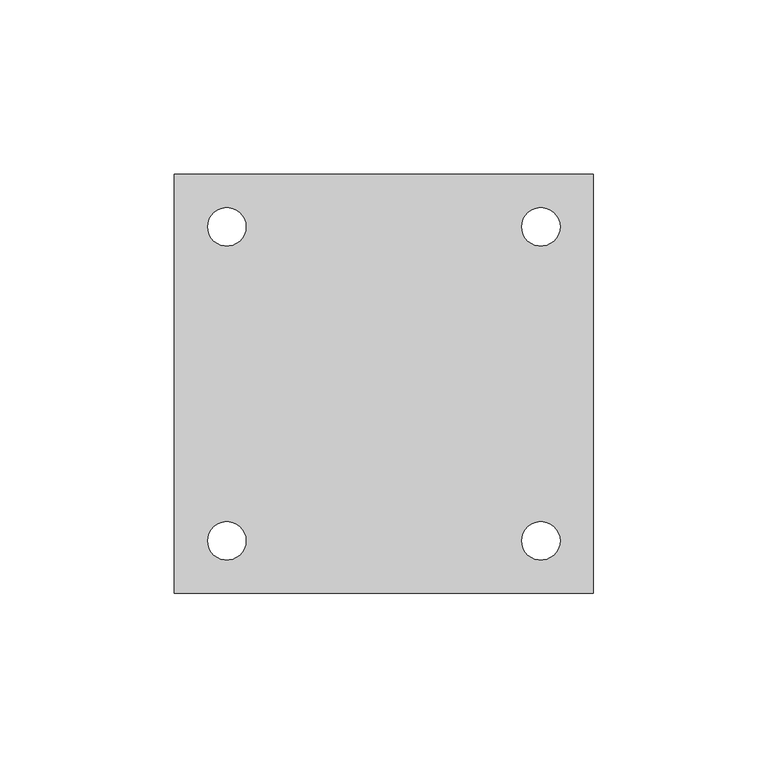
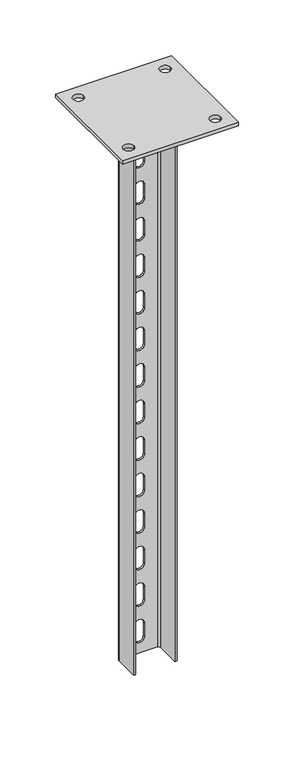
"""IFC4 building model written with IfcOpenShell, lengths in millimetres: proxy geometry, КМ Профиль_Стойка потолочная усиленная PSTU : PSTU600."""

from ifc_helpers import new_model, si_unit, point, frame, frame_2d, origin, place, context, project, spatial, polyline, circle_curve, trimmed, segment, composite_curve, outline, extrude, source, transform, mapped, element, save
from ifc_brep_helpers import plane_surface, cylinder_surface, revolved_surface, advanced_brep


def generic_models_ff980f85(model_context):
    return source(origin(), model_context, "Body", "SolidModel", [
        advanced_brep(
        [(22.5, -15.0, -4.0), (22.5, 11.0, -4.0), (18.5, 15.0, -4.0), (-18.5, 15.0, -4.0), (-22.5, 11.0, -4.0), (-22.5, -15.0, -4.0), (-20.5, -15.0, -4.0), (-20.5, 11.0, -4.0), (-18.5, 13.0, -4.0), (18.5, 13.0, -4.0), (20.5, 11.0, -4.0), (20.5, -15.0, -4.0), (22.5, 11.0, -604.0), (22.5, -15.0, -604.0), (20.5, -15.0, -604.0), (20.5, 11.0, -604.0), (18.5, 13.0, -604.0), (-18.5, 13.0, -604.0), (-20.5, 11.0, -604.0), (-20.5, -15.0, -604.0), (-22.5, -15.0, -604.0), (-22.5, 11.0, -604.0), (-18.5, 15.0, -604.0), (18.5, 15.0, -604.0), (-5.0, 15.0, -53.0), (-5.0, 15.0, -68.0), (5.0, 15.0, -68.0), (5.0, 15.0, -53.0), (-5.0, 15.0, -93.0), (-5.0, 15.0, -108.0), (5.0, 15.0, -108.0), (5.0, 15.0, -93.0), (-5.0, 15.0, -133.0), (-5.0, 15.0, -148.0), (5.0, 15.0, -148.0), (5.0, 15.0, -133.0), (-5.0, 15.0, -173.0), (-5.0, 15.0, -188.0), (5.0, 15.0, -188.0), (5.0, 15.0, -173.0), (-5.0, 15.0, -213.0), (-5.0, 15.0, -228.0), (5.0, 15.0, -228.0), (5.0, 15.0, -213.0), (-5.0, 15.0, -253.0), (-5.0, 15.0, -268.0), (5.0, 15.0, -268.0), (5.0, 15.0, -253.0), (-5.0, 15.0, -293.0), (-5.0, 15.0, -308.0), (5.0, 15.0, -308.0), (5.0, 15.0, -293.0), (-5.0, 15.0, -333.0), (-5.0, 15.0, -348.0), (5.0, 15.0, -348.0), (5.0, 15.0, -333.0), (-5.0, 15.0, -373.0), (-5.0, 15.0, -388.0), (5.0, 15.0, -388.0), (5.0, 15.0, -373.0), (-5.0, 15.0, -413.0), (-5.0, 15.0, -428.0), (5.0, 15.0, -428.0), (5.0, 15.0, -413.0), (-5.0, 15.0, -453.0), (-5.0, 15.0, -468.0), (5.0, 15.0, -468.0), (5.0, 15.0, -453.0), (-5.0, 15.0, -493.0), (-5.0, 15.0, -508.0), (5.0, 15.0, -508.0), (5.0, 15.0, -493.0), (-5.0, 15.0, -533.0), (-5.0, 15.0, -548.0), (5.0, 15.0, -548.0), (5.0, 15.0, -533.0), (-5.0, 15.0, -573.0), (-5.0, 15.0, -588.0), (5.0, 15.0, -588.0), (5.0, 15.0, -573.0), (-5.0, 15.0, -13.0), (-5.0, 15.0, -28.0), (5.0, 15.0, -28.0), (5.0, 15.0, -13.0), (-5.0, 13.0, -68.0), (-5.0, 13.0, -53.0), (5.0, 13.0, -53.0), (5.0, 13.0, -68.0), (-5.0, 13.0, -108.0), (-5.0, 13.0, -93.0), (5.0, 13.0, -93.0), (5.0, 13.0, -108.0), (-5.0, 13.0, -148.0), (-5.0, 13.0, -133.0), (5.0, 13.0, -133.0), (5.0, 13.0, -148.0), (-5.0, 13.0, -188.0), (-5.0, 13.0, -173.0), (5.0, 13.0, -173.0), (5.0, 13.0, -188.0), (-5.0, 13.0, -228.0), (-5.0, 13.0, -213.0), (5.0, 13.0, -213.0), (5.0, 13.0, -228.0), (-5.0, 13.0, -268.0), (-5.0, 13.0, -253.0), (5.0, 13.0, -253.0), (5.0, 13.0, -268.0), (-5.0, 13.0, -308.0), (-5.0, 13.0, -293.0), (5.0, 13.0, -293.0), (5.0, 13.0, -308.0), (-5.0, 13.0, -348.0), (-5.0, 13.0, -333.0), (5.0, 13.0, -333.0), (5.0, 13.0, -348.0), (-5.0, 13.0, -388.0), (-5.0, 13.0, -373.0), (5.0, 13.0, -373.0), (5.0, 13.0, -388.0), (-5.0, 13.0, -428.0), (-5.0, 13.0, -413.0), (5.0, 13.0, -413.0), (5.0, 13.0, -428.0), (-5.0, 13.0, -468.0), (-5.0, 13.0, -453.0), (5.0, 13.0, -453.0), (5.0, 13.0, -468.0), (-5.0, 13.0, -508.0), (-5.0, 13.0, -493.0), (5.0, 13.0, -493.0), (5.0, 13.0, -508.0), (-5.0, 13.0, -548.0), (-5.0, 13.0, -533.0), (5.0, 13.0, -533.0), (5.0, 13.0, -548.0), (-5.0, 13.0, -588.0), (-5.0, 13.0, -573.0), (5.0, 13.0, -573.0), (5.0, 13.0, -588.0), (-5.0, 13.0, -28.0), (-5.0, 13.0, -13.0), (5.0, 13.0, -13.0), (5.0, 13.0, -28.0)],
        [
            (0, 1),
            (1, 2, circle_curve(frame((18.5, 11.0, -4.0), z_axis=(0.0, 0.0, 1.0), x_axis=(1.0, 0.0, 0.0)), 4.0)),
            (2, 3),
            (3, 4, circle_curve(frame((-18.5, 11.0, -4.0), z_axis=(0.0, 0.0, 1.0), x_axis=(1.0, 0.0, 0.0)), 4.0)),
            (4, 5),
            (5, 6),
            (6, 7),
            (7, 8, circle_curve(frame((-18.5, 11.0, -4.0), z_axis=(0.0, 0.0, -1.0), x_axis=(1.0, 0.0, 0.0)), 2.0)),
            (8, 9),
            (9, 10, circle_curve(frame((18.5, 11.0, -4.0), z_axis=(0.0, 0.0, -1.0), x_axis=(1.0, 0.0, 0.0)), 2.0)),
            (10, 11),
            (11, 0),
            (12, 13),
            (13, 14),
            (14, 15),
            (15, 16, circle_curve(frame((18.5, 11.0, -604.0), z_axis=(0.0, 0.0, 1.0), x_axis=(1.0, 0.0, 0.0)), 2.0)),
            (16, 17),
            (17, 18, circle_curve(frame((-18.5, 11.0, -604.0), z_axis=(0.0, 0.0, 1.0), x_axis=(1.0, 0.0, 0.0)), 2.0)),
            (18, 19),
            (19, 20),
            (20, 21),
            (21, 22, circle_curve(frame((-18.5, 11.0, -604.0), z_axis=(0.0, 0.0, -1.0), x_axis=(1.0, 0.0, 0.0)), 4.0)),
            (22, 23),
            (23, 12, circle_curve(frame((18.5, 11.0, -604.0), z_axis=(0.0, 0.0, -1.0), x_axis=(1.0, 0.0, 0.0)), 4.0)),
            (0, 13),
            (12, 1),
            (23, 2),
            (22, 3),
            (24, 25),
            (25, 26, circle_curve(frame((0.0, 15.0, -68.0), z_axis=(0.0, -1.0, 0.0), x_axis=(0.0, 0.0, -1.0)), 5.0)),
            (26, 27),
            (27, 24, circle_curve(frame((0.0, 15.0, -53.0), z_axis=(0.0, -1.0, 0.0), x_axis=(0.0, 0.0, -1.0)), 5.0)),
            (28, 29),
            (29, 30, circle_curve(frame((0.0, 15.0, -108.0), z_axis=(0.0, -1.0, 0.0), x_axis=(0.0, 0.0, -1.0)), 5.0)),
            (30, 31),
            (31, 28, circle_curve(frame((0.0, 15.0, -93.0), z_axis=(0.0, -1.0, 0.0), x_axis=(0.0, 0.0, -1.0)), 5.0)),
            (32, 33),
            (33, 34, circle_curve(frame((0.0, 15.0, -148.0), z_axis=(0.0, -1.0, 0.0), x_axis=(0.0, 0.0, -1.0)), 5.0)),
            (34, 35),
            (35, 32, circle_curve(frame((0.0, 15.0, -133.0), z_axis=(0.0, -1.0, 0.0), x_axis=(0.0, 0.0, -1.0)), 5.0)),
            (36, 37),
            (37, 38, circle_curve(frame((0.0, 15.0, -188.0), z_axis=(0.0, -1.0, 0.0), x_axis=(0.0, 0.0, -1.0)), 5.0)),
            (38, 39),
            (39, 36, circle_curve(frame((0.0, 15.0, -173.0), z_axis=(0.0, -1.0, 0.0), x_axis=(0.0, 0.0, -1.0)), 5.0)),
            (40, 41),
            (41, 42, circle_curve(frame((0.0, 15.0, -228.0), z_axis=(0.0, -1.0, 0.0), x_axis=(0.0, 0.0, -1.0)), 5.0)),
            (42, 43),
            (43, 40, circle_curve(frame((0.0, 15.0, -213.0), z_axis=(0.0, -1.0, 0.0), x_axis=(0.0, 0.0, -1.0)), 5.0)),
            (44, 45),
            (45, 46, circle_curve(frame((0.0, 15.0, -268.0), z_axis=(0.0, -1.0, 0.0), x_axis=(0.0, 0.0, -1.0)), 5.0)),
            (46, 47),
            (47, 44, circle_curve(frame((0.0, 15.0, -253.0), z_axis=(0.0, -1.0, 0.0), x_axis=(0.0, 0.0, -1.0)), 5.0)),
            (48, 49),
            (49, 50, circle_curve(frame((0.0, 15.0, -308.0), z_axis=(0.0, -1.0, 0.0), x_axis=(0.0, 0.0, -1.0)), 5.0)),
            (50, 51),
            (51, 48, circle_curve(frame((0.0, 15.0, -293.0), z_axis=(0.0, -1.0, 0.0), x_axis=(0.0, 0.0, -1.0)), 5.0)),
            (52, 53),
            (53, 54, circle_curve(frame((0.0, 15.0, -348.0), z_axis=(0.0, -1.0, 0.0), x_axis=(0.0, 0.0, -1.0)), 5.0)),
            (54, 55),
            (55, 52, circle_curve(frame((0.0, 15.0, -333.0), z_axis=(0.0, -1.0, 0.0), x_axis=(0.0, 0.0, -1.0)), 5.0)),
            (56, 57),
            (57, 58, circle_curve(frame((0.0, 15.0, -388.0), z_axis=(0.0, -1.0, 0.0), x_axis=(0.0, 0.0, -1.0)), 5.0)),
            (58, 59),
            (59, 56, circle_curve(frame((0.0, 15.0, -373.0), z_axis=(0.0, -1.0, 0.0), x_axis=(0.0, 0.0, -1.0)), 5.0)),
            (60, 61),
            (61, 62, circle_curve(frame((0.0, 15.0, -428.0), z_axis=(0.0, -1.0, 0.0), x_axis=(0.0, 0.0, -1.0)), 5.0)),
            (62, 63),
            (63, 60, circle_curve(frame((0.0, 15.0, -413.0), z_axis=(0.0, -1.0, 0.0), x_axis=(0.0, 0.0, -1.0)), 5.0)),
            (64, 65),
            (65, 66, circle_curve(frame((0.0, 15.0, -468.0), z_axis=(0.0, -1.0, 0.0), x_axis=(0.0, 0.0, -1.0)), 5.0)),
            (66, 67),
            (67, 64, circle_curve(frame((0.0, 15.0, -453.0), z_axis=(0.0, -1.0, 0.0), x_axis=(0.0, 0.0, -1.0)), 5.0)),
            (68, 69),
            (69, 70, circle_curve(frame((0.0, 15.0, -508.0), z_axis=(0.0, -1.0, 0.0), x_axis=(0.0, 0.0, -1.0)), 5.0)),
            (70, 71),
            (71, 68, circle_curve(frame((0.0, 15.0, -493.0), z_axis=(0.0, -1.0, 0.0), x_axis=(0.0, 0.0, -1.0)), 5.0)),
            (72, 73),
            (73, 74, circle_curve(frame((0.0, 15.0, -548.0), z_axis=(0.0, -1.0, 0.0), x_axis=(0.0, 0.0, -1.0)), 5.0)),
            (74, 75),
            (75, 72, circle_curve(frame((0.0, 15.0, -533.0), z_axis=(0.0, -1.0, 0.0), x_axis=(0.0, 0.0, -1.0)), 5.0)),
            (76, 77),
            (77, 78, circle_curve(frame((0.0, 15.0, -588.0), z_axis=(0.0, -1.0, 0.0), x_axis=(0.0, 0.0, -1.0)), 5.0)),
            (78, 79),
            (79, 76, circle_curve(frame((0.0, 15.0, -573.0), z_axis=(0.0, -1.0, 0.0), x_axis=(0.0, 0.0, -1.0)), 5.0)),
            (80, 81),
            (81, 82, circle_curve(frame((0.0, 15.0, -28.0), z_axis=(0.0, -1.0, 0.0), x_axis=(0.0, 0.0, -1.0)), 5.0)),
            (82, 83),
            (83, 80, circle_curve(frame((0.0, 15.0, -13.0), z_axis=(0.0, -1.0, 0.0), x_axis=(0.0, 0.0, -1.0)), 5.0)),
            (21, 4),
            (20, 5),
            (19, 6),
            (18, 7),
            (17, 8),
            (16, 9),
            (84, 85),
            (85, 86, circle_curve(frame((0.0, 13.0, -53.0), z_axis=(0.0, 1.0, 0.0), x_axis=(0.0, 0.0, -1.0)), 5.0)),
            (86, 87),
            (87, 84, circle_curve(frame((0.0, 13.0, -68.0), z_axis=(0.0, 1.0, 0.0), x_axis=(0.0, 0.0, -1.0)), 5.0)),
            (88, 89),
            (89, 90, circle_curve(frame((0.0, 13.0, -93.0), z_axis=(0.0, 1.0, 0.0), x_axis=(0.0, 0.0, -1.0)), 5.0)),
            (90, 91),
            (91, 88, circle_curve(frame((0.0, 13.0, -108.0), z_axis=(0.0, 1.0, 0.0), x_axis=(0.0, 0.0, -1.0)), 5.0)),
            (92, 93),
            (93, 94, circle_curve(frame((0.0, 13.0, -133.0), z_axis=(0.0, 1.0, 0.0), x_axis=(0.0, 0.0, -1.0)), 5.0)),
            (94, 95),
            (95, 92, circle_curve(frame((0.0, 13.0, -148.0), z_axis=(0.0, 1.0, 0.0), x_axis=(0.0, 0.0, -1.0)), 5.0)),
            (96, 97),
            (97, 98, circle_curve(frame((0.0, 13.0, -173.0), z_axis=(0.0, 1.0, 0.0), x_axis=(0.0, 0.0, -1.0)), 5.0)),
            (98, 99),
            (99, 96, circle_curve(frame((0.0, 13.0, -188.0), z_axis=(0.0, 1.0, 0.0), x_axis=(0.0, 0.0, -1.0)), 5.0)),
            (100, 101),
            (101, 102, circle_curve(frame((0.0, 13.0, -213.0), z_axis=(0.0, 1.0, 0.0), x_axis=(0.0, 0.0, -1.0)), 5.0)),
            (102, 103),
            (103, 100, circle_curve(frame((0.0, 13.0, -228.0), z_axis=(0.0, 1.0, 0.0), x_axis=(0.0, 0.0, -1.0)), 5.0)),
            (104, 105),
            (105, 106, circle_curve(frame((0.0, 13.0, -253.0), z_axis=(0.0, 1.0, 0.0), x_axis=(0.0, 0.0, -1.0)), 5.0)),
            (106, 107),
            (107, 104, circle_curve(frame((0.0, 13.0, -268.0), z_axis=(0.0, 1.0, 0.0), x_axis=(0.0, 0.0, -1.0)), 5.0)),
            (108, 109),
            (109, 110, circle_curve(frame((0.0, 13.0, -293.0), z_axis=(0.0, 1.0, 0.0), x_axis=(0.0, 0.0, -1.0)), 5.0)),
            (110, 111),
            (111, 108, circle_curve(frame((0.0, 13.0, -308.0), z_axis=(0.0, 1.0, 0.0), x_axis=(0.0, 0.0, -1.0)), 5.0)),
            (112, 113),
            (113, 114, circle_curve(frame((0.0, 13.0, -333.0), z_axis=(0.0, 1.0, 0.0), x_axis=(0.0, 0.0, -1.0)), 5.0)),
            (114, 115),
            (115, 112, circle_curve(frame((0.0, 13.0, -348.0), z_axis=(0.0, 1.0, 0.0), x_axis=(0.0, 0.0, -1.0)), 5.0)),
            (116, 117),
            (117, 118, circle_curve(frame((0.0, 13.0, -373.0), z_axis=(0.0, 1.0, 0.0), x_axis=(0.0, 0.0, -1.0)), 5.0)),
            (118, 119),
            (119, 116, circle_curve(frame((0.0, 13.0, -388.0), z_axis=(0.0, 1.0, 0.0), x_axis=(0.0, 0.0, -1.0)), 5.0)),
            (120, 121),
            (121, 122, circle_curve(frame((0.0, 13.0, -413.0), z_axis=(0.0, 1.0, 0.0), x_axis=(0.0, 0.0, -1.0)), 5.0)),
            (122, 123),
            (123, 120, circle_curve(frame((0.0, 13.0, -428.0), z_axis=(0.0, 1.0, 0.0), x_axis=(0.0, 0.0, -1.0)), 5.0)),
            (124, 125),
            (125, 126, circle_curve(frame((0.0, 13.0, -453.0), z_axis=(0.0, 1.0, 0.0), x_axis=(0.0, 0.0, -1.0)), 5.0)),
            (126, 127),
            (127, 124, circle_curve(frame((0.0, 13.0, -468.0), z_axis=(0.0, 1.0, 0.0), x_axis=(0.0, 0.0, -1.0)), 5.0)),
            (128, 129),
            (129, 130, circle_curve(frame((0.0, 13.0, -493.0), z_axis=(0.0, 1.0, 0.0), x_axis=(0.0, 0.0, -1.0)), 5.0)),
            (130, 131),
            (131, 128, circle_curve(frame((0.0, 13.0, -508.0), z_axis=(0.0, 1.0, 0.0), x_axis=(0.0, 0.0, -1.0)), 5.0)),
            (132, 133),
            (133, 134, circle_curve(frame((0.0, 13.0, -533.0), z_axis=(0.0, 1.0, 0.0), x_axis=(0.0, 0.0, -1.0)), 5.0)),
            (134, 135),
            (135, 132, circle_curve(frame((0.0, 13.0, -548.0), z_axis=(0.0, 1.0, 0.0), x_axis=(0.0, 0.0, -1.0)), 5.0)),
            (136, 137),
            (137, 138, circle_curve(frame((0.0, 13.0, -573.0), z_axis=(0.0, 1.0, 0.0), x_axis=(0.0, 0.0, -1.0)), 5.0)),
            (138, 139),
            (139, 136, circle_curve(frame((0.0, 13.0, -588.0), z_axis=(0.0, 1.0, 0.0), x_axis=(0.0, 0.0, -1.0)), 5.0)),
            (140, 141),
            (141, 142, circle_curve(frame((0.0, 13.0, -13.0), z_axis=(0.0, 1.0, 0.0), x_axis=(0.0, 0.0, -1.0)), 5.0)),
            (142, 143),
            (143, 140, circle_curve(frame((0.0, 13.0, -28.0), z_axis=(0.0, 1.0, 0.0), x_axis=(0.0, 0.0, -1.0)), 5.0)),
            (15, 10),
            (14, 11),
            (24, 85),
            (84, 25),
            (27, 86),
            (26, 87),
            (28, 89),
            (88, 29),
            (31, 90),
            (30, 91),
            (32, 93),
            (92, 33),
            (35, 94),
            (34, 95),
            (36, 97),
            (96, 37),
            (39, 98),
            (38, 99),
            (40, 101),
            (100, 41),
            (43, 102),
            (42, 103),
            (44, 105),
            (104, 45),
            (47, 106),
            (46, 107),
            (48, 109),
            (108, 49),
            (51, 110),
            (50, 111),
            (52, 113),
            (112, 53),
            (55, 114),
            (54, 115),
            (56, 117),
            (116, 57),
            (59, 118),
            (58, 119),
            (60, 121),
            (120, 61),
            (63, 122),
            (62, 123),
            (64, 125),
            (124, 65),
            (67, 126),
            (66, 127),
            (68, 129),
            (128, 69),
            (71, 130),
            (70, 131),
            (72, 133),
            (132, 73),
            (75, 134),
            (74, 135),
            (76, 137),
            (136, 77),
            (79, 138),
            (78, 139),
            (80, 141),
            (140, 81),
            (83, 142),
            (82, 143),
        ],
        [
            plane_surface(frame((22.5, 11.0, -4.0), z_axis=(0.0, 0.0, 1.0), x_axis=(0.0, 1.0, 0.0))),
            plane_surface(frame((22.5, 11.0, -604.0), z_axis=(0.0, 0.0, -1.0), x_axis=(0.0, -1.0, 0.0))),
            plane_surface(frame((22.5, -15.0, -4.0), z_axis=(1.0, 0.0, 0.0), x_axis=(0.0, 0.0, -1.0))),
            cylinder_surface(frame((18.5, 11.0, -604.0), z_axis=(0.0, 0.0, 1.0), x_axis=(1.0, 0.0, 0.0)), 4.0),
            plane_surface(frame((18.5, 15.0, -4.0), z_axis=(0.0, 1.0, 0.0), x_axis=(0.0, 0.0, -1.0))),
            cylinder_surface(frame((-18.5, 11.0, -604.0), z_axis=(0.0, 0.0, 1.0), x_axis=(1.0, 0.0, 0.0)), 4.0),
            plane_surface(frame((-22.5, 11.0, -4.0), z_axis=(-1.0, 0.0, 0.0), x_axis=(0.0, 0.0, -1.0))),
            plane_surface(frame((-22.5, -15.0, -4.0), z_axis=(0.0, -1.0, 0.0), x_axis=(0.0, 0.0, -1.0))),
            plane_surface(frame((-20.5, -15.0, -4.0), z_axis=(1.0, 0.0, 0.0), x_axis=(0.0, 0.0, -1.0))),
            revolved_surface(polyline([(-16.5, 11.0, -604.0), (-16.5, 11.0, -4.0)]), (-18.5, 11.0, -604.0), (0.0, 0.0, -1.0)),
            plane_surface(frame((-18.5, 13.0, -4.0), z_axis=(0.0, -1.0, 0.0), x_axis=(0.0, 0.0, -1.0))),
            revolved_surface(polyline([(20.5, 11.0, -604.0), (20.5, 11.0, -4.0)]), (18.5, 11.0, -604.0), (0.0, 0.0, -1.0)),
            plane_surface(frame((20.5, 11.0, -4.0), z_axis=(-1.0, 0.0, 0.0), x_axis=(0.0, 0.0, -1.0))),
            plane_surface(frame((20.5, -15.0, -4.0), z_axis=(0.0, -1.0, 0.0), x_axis=(0.0, 0.0, -1.0))),
            plane_surface(frame((-5.0, 15.0, -68.0), z_axis=(1.0, 0.0, 0.0), x_axis=(0.0, -1.0, 0.0))),
            revolved_surface(polyline([(0.0, 15.0, -58.0), (0.0, 13.0, -58.0)]), (0.0, 13.0, -53.0), (0.0, 1.0, 0.0)),
            plane_surface(frame((5.0, 15.0, -53.0), z_axis=(-1.0, 0.0, 0.0), x_axis=(0.0, -1.0, 0.0))),
            revolved_surface(polyline([(0.0, 15.0, -73.0), (0.0, 13.0, -73.0)]), (0.0, 13.0, -68.0), (0.0, 1.0, 0.0)),
            plane_surface(frame((-5.0, 15.0, -108.0), z_axis=(1.0, 0.0, 0.0), x_axis=(0.0, -1.0, 0.0))),
            revolved_surface(polyline([(0.0, 15.0, -98.0), (0.0, 13.0, -98.0)]), (0.0, 13.0, -93.0), (0.0, 1.0, 0.0)),
            plane_surface(frame((5.0, 15.0, -93.0), z_axis=(-1.0, 0.0, 0.0), x_axis=(0.0, -1.0, 0.0))),
            revolved_surface(polyline([(0.0, 15.0, -113.0), (0.0, 13.0, -113.0)]), (0.0, 13.0, -108.0), (0.0, 1.0, 0.0)),
            plane_surface(frame((-5.0, 15.0, -148.0), z_axis=(1.0, 0.0, 0.0), x_axis=(0.0, -1.0, 0.0))),
            revolved_surface(polyline([(0.0, 15.0, -138.0), (0.0, 13.0, -138.0)]), (0.0, 13.0, -133.0), (0.0, 1.0, 0.0)),
            plane_surface(frame((5.0, 15.0, -133.0), z_axis=(-1.0, 0.0, 0.0), x_axis=(0.0, -1.0, 0.0))),
            revolved_surface(polyline([(0.0, 15.0, -153.0), (0.0, 13.0, -153.0)]), (0.0, 13.0, -148.0), (0.0, 1.0, 0.0)),
            plane_surface(frame((-5.0, 15.0, -188.0), z_axis=(1.0, 0.0, 0.0), x_axis=(0.0, -1.0, 0.0))),
            revolved_surface(polyline([(0.0, 15.0, -178.0), (0.0, 13.0, -178.0)]), (0.0, 13.0, -173.0), (0.0, 1.0, 0.0)),
            plane_surface(frame((5.0, 15.0, -173.0), z_axis=(-1.0, 0.0, 0.0), x_axis=(0.0, -1.0, 0.0))),
            revolved_surface(polyline([(0.0, 15.0, -193.0), (0.0, 13.0, -193.0)]), (0.0, 13.0, -188.0), (0.0, 1.0, 0.0)),
            plane_surface(frame((-5.0, 15.0, -228.0), z_axis=(1.0, 0.0, 0.0), x_axis=(0.0, -1.0, 0.0))),
            revolved_surface(polyline([(0.0, 15.0, -218.0), (0.0, 13.0, -218.0)]), (0.0, 13.0, -213.0), (0.0, 1.0, 0.0)),
            plane_surface(frame((5.0, 15.0, -213.0), z_axis=(-1.0, 0.0, 0.0), x_axis=(0.0, -1.0, 0.0))),
            revolved_surface(polyline([(0.0, 15.0, -233.0), (0.0, 13.0, -233.0)]), (0.0, 13.0, -228.0), (0.0, 1.0, 0.0)),
            plane_surface(frame((-5.0, 15.0, -268.0), z_axis=(1.0, 0.0, 0.0), x_axis=(0.0, -1.0, 0.0))),
            revolved_surface(polyline([(0.0, 15.0, -258.0), (0.0, 13.0, -258.0)]), (0.0, 13.0, -253.0), (0.0, 1.0, 0.0)),
            plane_surface(frame((5.0, 15.0, -253.0), z_axis=(-1.0, 0.0, 0.0), x_axis=(0.0, -1.0, 0.0))),
            revolved_surface(polyline([(0.0, 15.0, -273.0), (0.0, 13.0, -273.0)]), (0.0, 13.0, -268.0), (0.0, 1.0, 0.0)),
            plane_surface(frame((-5.0, 15.0, -308.0), z_axis=(1.0, 0.0, 0.0), x_axis=(0.0, -1.0, 0.0))),
            revolved_surface(polyline([(0.0, 15.0, -298.0), (0.0, 13.0, -298.0)]), (0.0, 13.0, -293.0), (0.0, 1.0, 0.0)),
            plane_surface(frame((5.0, 15.0, -293.0), z_axis=(-1.0, 0.0, 0.0), x_axis=(0.0, -1.0, 0.0))),
            revolved_surface(polyline([(0.0, 15.0, -313.0), (0.0, 13.0, -313.0)]), (0.0, 13.0, -308.0), (0.0, 1.0, 0.0)),
            plane_surface(frame((-5.0, 15.0, -348.0), z_axis=(1.0, 0.0, 0.0), x_axis=(0.0, -1.0, 0.0))),
            revolved_surface(polyline([(0.0, 15.0, -338.0), (0.0, 13.0, -338.0)]), (0.0, 13.0, -333.0), (0.0, 1.0, 0.0)),
            plane_surface(frame((5.0, 15.0, -333.0), z_axis=(-1.0, 0.0, 0.0), x_axis=(0.0, -1.0, 0.0))),
            revolved_surface(polyline([(0.0, 15.0, -353.0), (0.0, 13.0, -353.0)]), (0.0, 13.0, -348.0), (0.0, 1.0, 0.0)),
            plane_surface(frame((-5.0, 15.0, -388.0), z_axis=(1.0, 0.0, 0.0), x_axis=(0.0, -1.0, 0.0))),
            revolved_surface(polyline([(0.0, 15.0, -378.0), (0.0, 13.0, -378.0)]), (0.0, 13.0, -373.0), (0.0, 1.0, 0.0)),
            plane_surface(frame((5.0, 15.0, -373.0), z_axis=(-1.0, 0.0, 0.0), x_axis=(0.0, -1.0, 0.0))),
            revolved_surface(polyline([(0.0, 15.0, -393.0), (0.0, 13.0, -393.0)]), (0.0, 13.0, -388.0), (0.0, 1.0, 0.0)),
            plane_surface(frame((-5.0, 15.0, -428.0), z_axis=(1.0, 0.0, 0.0), x_axis=(0.0, -1.0, 0.0))),
            revolved_surface(polyline([(0.0, 15.0, -418.0), (0.0, 13.0, -418.0)]), (0.0, 13.0, -413.0), (0.0, 1.0, 0.0)),
            plane_surface(frame((5.0, 15.0, -413.0), z_axis=(-1.0, 0.0, 0.0), x_axis=(0.0, -1.0, 0.0))),
            revolved_surface(polyline([(0.0, 15.0, -433.0), (0.0, 13.0, -433.0)]), (0.0, 13.0, -428.0), (0.0, 1.0, 0.0)),
            plane_surface(frame((-5.0, 15.0, -468.0), z_axis=(1.0, 0.0, 0.0), x_axis=(0.0, -1.0, 0.0))),
            revolved_surface(polyline([(0.0, 15.0, -458.0), (0.0, 13.0, -458.0)]), (0.0, 13.0, -453.0), (0.0, 1.0, 0.0)),
            plane_surface(frame((5.0, 15.0, -453.0), z_axis=(-1.0, 0.0, 0.0), x_axis=(0.0, -1.0, 0.0))),
            revolved_surface(polyline([(0.0, 15.0, -473.0), (0.0, 13.0, -473.0)]), (0.0, 13.0, -468.0), (0.0, 1.0, 0.0)),
            plane_surface(frame((-5.0, 15.0, -508.0), z_axis=(1.0, 0.0, 0.0), x_axis=(0.0, -1.0, 0.0))),
            revolved_surface(polyline([(0.0, 15.0, -498.0), (0.0, 13.0, -498.0)]), (0.0, 13.0, -493.0), (0.0, 1.0, 0.0)),
            plane_surface(frame((5.0, 15.0, -493.0), z_axis=(-1.0, 0.0, 0.0), x_axis=(0.0, -1.0, 0.0))),
            revolved_surface(polyline([(0.0, 15.0, -513.0), (0.0, 13.0, -513.0)]), (0.0, 13.0, -508.0), (0.0, 1.0, 0.0)),
            plane_surface(frame((-5.0, 15.0, -548.0), z_axis=(1.0, 0.0, 0.0), x_axis=(0.0, -1.0, 0.0))),
            revolved_surface(polyline([(0.0, 15.0, -538.0), (0.0, 13.0, -538.0)]), (0.0, 13.0, -533.0), (0.0, 1.0, 0.0)),
            plane_surface(frame((5.0, 15.0, -533.0), z_axis=(-1.0, 0.0, 0.0), x_axis=(0.0, -1.0, 0.0))),
            revolved_surface(polyline([(0.0, 15.0, -553.0), (0.0, 13.0, -553.0)]), (0.0, 13.0, -548.0), (0.0, 1.0, 0.0)),
            plane_surface(frame((-5.0, 15.0, -588.0), z_axis=(1.0, 0.0, 0.0), x_axis=(0.0, -1.0, 0.0))),
            revolved_surface(polyline([(0.0, 15.0, -578.0), (0.0, 13.0, -578.0)]), (0.0, 13.0, -573.0), (0.0, 1.0, 0.0)),
            plane_surface(frame((5.0, 15.0, -573.0), z_axis=(-1.0, 0.0, 0.0), x_axis=(0.0, -1.0, 0.0))),
            revolved_surface(polyline([(0.0, 15.0, -593.0), (0.0, 13.0, -593.0)]), (0.0, 13.0, -588.0), (0.0, 1.0, 0.0)),
            plane_surface(frame((-5.0, 15.0, -28.0), z_axis=(1.0, 0.0, 0.0), x_axis=(0.0, -1.0, 0.0))),
            revolved_surface(polyline([(0.0, 15.0, -18.0), (0.0, 13.0, -18.0)]), (0.0, 13.0, -13.0), (0.0, 1.0, 0.0)),
            plane_surface(frame((5.0, 15.0, -13.0), z_axis=(-1.0, 0.0, 0.0), x_axis=(0.0, -1.0, 0.0))),
            revolved_surface(polyline([(0.0, 15.0, -33.0), (0.0, 13.0, -33.0)]), (0.0, 13.0, -28.0), (0.0, 1.0, 0.0)),
        ],
        [
            (0, [[1, 2, 3, 4, 5, 6, 7, 8, 9, 10, 11, 12]]),
            (1, [[13, 14, 15, 16, 17, 18, 19, 20, 21, 22, 23, 24]]),
            (2, [[-1, 25, -13, 26]]),
            (3, [[-2, -26, -24, 27]]),
            (4, [[-3, -27, -23, 28], [29, 30, 31, 32], [33, 34, 35, 36], [37, 38, 39, 40], [41, 42, 43, 44], [45, 46, 47, 48], [49, 50, 51, 52], [53, 54, 55, 56], [57, 58, 59, 60], [61, 62, 63, 64], [65, 66, 67, 68], [69, 70, 71, 72], [73, 74, 75, 76], [77, 78, 79, 80], [81, 82, 83, 84], [85, 86, 87, 88]]),
            (5, [[-4, -28, -22, 89]]),
            (6, [[-5, -89, -21, 90]]),
            (7, [[-6, -90, -20, 91]]),
            (8, [[-7, -91, -19, 92]]),
            (9, [[-8, -92, -18, 93]]),
            (10, [[-9, -93, -17, 94], [95, 96, 97, 98], [99, 100, 101, 102], [103, 104, 105, 106], [107, 108, 109, 110], [111, 112, 113, 114], [115, 116, 117, 118], [119, 120, 121, 122], [123, 124, 125, 126], [127, 128, 129, 130], [131, 132, 133, 134], [135, 136, 137, 138], [139, 140, 141, 142], [143, 144, 145, 146], [147, 148, 149, 150], [151, 152, 153, 154]]),
            (11, [[-10, -94, -16, 155]]),
            (12, [[-11, -155, -15, 156]]),
            (13, [[-12, -156, -14, -25]]),
            (14, [[157, -95, 158, -29]]),
            (15, [[-157, -32, 159, -96]]),
            (16, [[-159, -31, 160, -97]]),
            (17, [[-158, -98, -160, -30]]),
            (18, [[161, -99, 162, -33]]),
            (19, [[-161, -36, 163, -100]]),
            (20, [[-163, -35, 164, -101]]),
            (21, [[-162, -102, -164, -34]]),
            (22, [[165, -103, 166, -37]]),
            (23, [[-165, -40, 167, -104]]),
            (24, [[-167, -39, 168, -105]]),
            (25, [[-166, -106, -168, -38]]),
            (26, [[169, -107, 170, -41]]),
            (27, [[-169, -44, 171, -108]]),
            (28, [[-171, -43, 172, -109]]),
            (29, [[-170, -110, -172, -42]]),
            (30, [[173, -111, 174, -45]]),
            (31, [[-173, -48, 175, -112]]),
            (32, [[-175, -47, 176, -113]]),
            (33, [[-174, -114, -176, -46]]),
            (34, [[177, -115, 178, -49]]),
            (35, [[-177, -52, 179, -116]]),
            (36, [[-179, -51, 180, -117]]),
            (37, [[-178, -118, -180, -50]]),
            (38, [[181, -119, 182, -53]]),
            (39, [[-181, -56, 183, -120]]),
            (40, [[-183, -55, 184, -121]]),
            (41, [[-182, -122, -184, -54]]),
            (42, [[185, -123, 186, -57]]),
            (43, [[-185, -60, 187, -124]]),
            (44, [[-187, -59, 188, -125]]),
            (45, [[-186, -126, -188, -58]]),
            (46, [[189, -127, 190, -61]]),
            (47, [[-189, -64, 191, -128]]),
            (48, [[-191, -63, 192, -129]]),
            (49, [[-190, -130, -192, -62]]),
            (50, [[193, -131, 194, -65]]),
            (51, [[-193, -68, 195, -132]]),
            (52, [[-195, -67, 196, -133]]),
            (53, [[-194, -134, -196, -66]]),
            (54, [[197, -135, 198, -69]]),
            (55, [[-197, -72, 199, -136]]),
            (56, [[-199, -71, 200, -137]]),
            (57, [[-198, -138, -200, -70]]),
            (58, [[201, -139, 202, -73]]),
            (59, [[-201, -76, 203, -140]]),
            (60, [[-203, -75, 204, -141]]),
            (61, [[-202, -142, -204, -74]]),
            (62, [[205, -143, 206, -77]]),
            (63, [[-205, -80, 207, -144]]),
            (64, [[-207, -79, 208, -145]]),
            (65, [[-206, -146, -208, -78]]),
            (66, [[209, -147, 210, -81]]),
            (67, [[-209, -84, 211, -148]]),
            (68, [[-211, -83, 212, -149]]),
            (69, [[-210, -150, -212, -82]]),
            (70, [[213, -151, 214, -85]]),
            (71, [[-213, -88, 215, -152]]),
            (72, [[-215, -87, 216, -153]]),
            (73, [[-214, -154, -216, -86]]),
        ],
    ),
        extrude(outline(polyline([(-60.0, 60.0), (60.0, 60.0), (60.0, -60.0), (-60.0, -60.0), (-60.0, 60.0)]), holes=[composite_curve([segment(trimmed(circle_curve(frame_2d((-45.0, 45.0)), 5.5), [point((-50.5, 45.0))], [point((-39.5, 45.0))], True, "CARTESIAN"), True, "CONTINUOUS"), segment(trimmed(circle_curve(frame_2d((-45.0, 45.0)), 5.5), [point((-39.5, 45.0))], [point((-50.5, 45.0))], True, "CARTESIAN"), True, "CONTINUOUS")], self_intersect=False), composite_curve([segment(trimmed(circle_curve(frame_2d((45.0, 45.0)), 5.5), [point((39.5, 45.0))], [point((50.5, 45.0))], True, "CARTESIAN"), True, "CONTINUOUS"), segment(trimmed(circle_curve(frame_2d((45.0, 45.0)), 5.5), [point((50.5, 45.0))], [point((39.5, 45.0))], True, "CARTESIAN"), True, "CONTINUOUS")], self_intersect=False), composite_curve([segment(trimmed(circle_curve(frame_2d((45.0, -45.0)), 5.5), [point((39.5, -45.0))], [point((50.5, -45.0))], True, "CARTESIAN"), True, "CONTINUOUS"), segment(trimmed(circle_curve(frame_2d((45.0, -45.0)), 5.5), [point((50.5, -45.0))], [point((39.5, -45.0))], True, "CARTESIAN"), True, "CONTINUOUS")], self_intersect=False), composite_curve([segment(trimmed(circle_curve(frame_2d((-45.0, -45.0)), 5.5), [point((-50.5, -45.0))], [point((-39.5, -45.0))], True, "CARTESIAN"), True, "CONTINUOUS"), segment(trimmed(circle_curve(frame_2d((-45.0, -45.0)), 5.5), [point((-39.5, -45.0))], [point((-50.5, -45.0))], True, "CARTESIAN"), True, "CONTINUOUS")], self_intersect=False)]), frame((0.0, 0.0, -4.0), z_axis=(0.0, 0.0, 1.0), x_axis=(1.0, 0.0, 0.0)), (0.0, 0.0, 1.0), 4.0),
    ])


if __name__ == "__main__":
    model = new_model("IFC4")
    model_context = context("Model", 3, world=origin())
    ifc_project = project(units=[si_unit("LENGTHUNIT", "METRE", prefix="MILLI")], contexts=[model_context])
    site = spatial("IfcSite", under=ifc_project)
    building = spatial("IfcBuilding", under=site)
    placement = place(None, origin())
    generic_models_shape = generic_models_ff980f85(model_context)
    element("IfcBuildingElementProxy", 1, Name="КМ Профиль_Стойка потолочная усиленная PSTU : PSTU600", ObjectType="КМ Профиль_Стойка потолочная усиленная PSTU : PSTU600", at=placement, inside=building, context=model_context, shape_type="MappedRepresentation", body=[
        mapped(generic_models_shape, transform((0.0, 0.0, 0.0), x_axis=(1.0, 0.0, 0.0), y_axis=(0.0, 1.0, 0.0), z_axis=(0.0, 0.0, 1.0))),
    ])
    save(model, "model.ifc")
